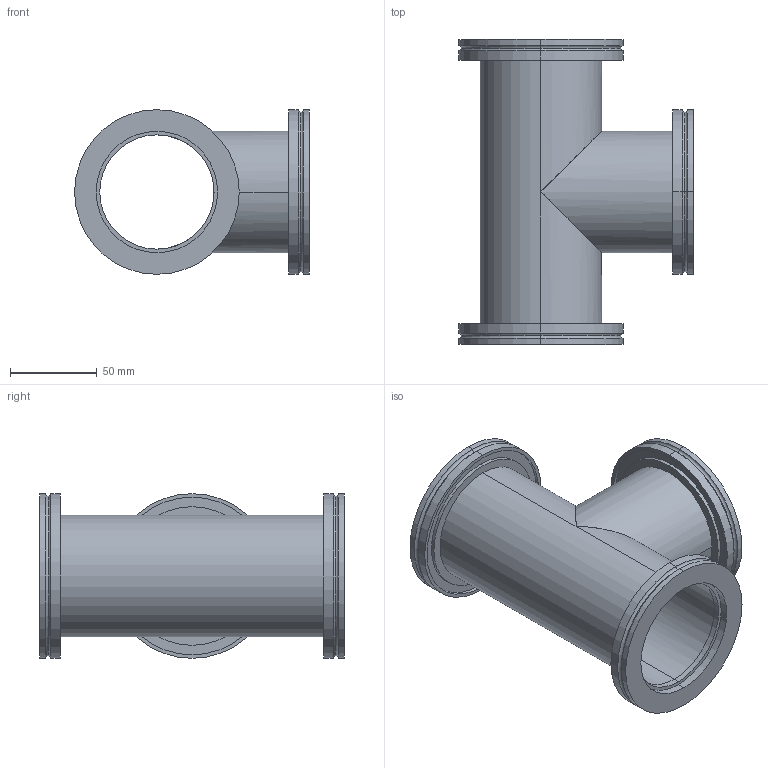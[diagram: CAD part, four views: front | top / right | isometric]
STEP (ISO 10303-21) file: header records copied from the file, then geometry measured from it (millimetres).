
FILE_DESCRIPTION (( 'STEP AP214' ), '1' );
FILE_NAME ('W4TS63.STEP', '2020-10-10T09:25:50', ( '' ), ( '' ), 'SwSTEP 2.0', 'SolidWorks 2020', '' );
FILE_SCHEMA (( 'AUTOMOTIVE_DESIGN' ));
Length unit declared in the file: millimetre
Products named in the file (1): W4TS63
Bounding box: 135.5 x 176 x 95 mm (x, y, z)
Volume: 193023.5 mm3; surface area: 131726.9 mm2
Topology: 5 solids, 5 shells, 89 faces, 184 edges, 114 vertices
Faces by surface type: cylinder 52, plane 25, torus 12
Entity records: 2478 total; most frequent: DIRECTION 466, CARTESIAN_POINT 424, ORIENTED_EDGE 368, AXIS2_PLACEMENT_3D 204, EDGE_CURVE 184, VERTEX_POINT 114, CIRCLE 114, EDGE_LOOP 110
